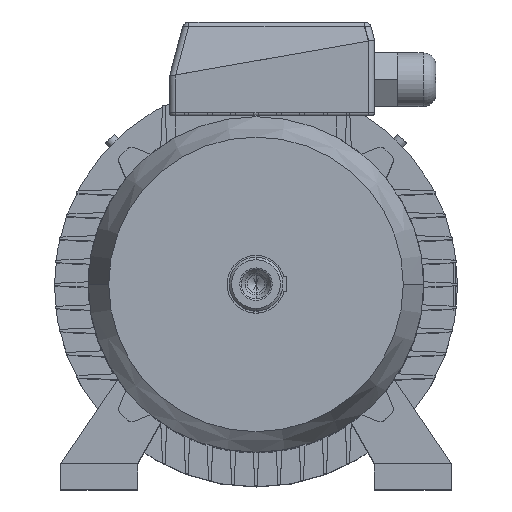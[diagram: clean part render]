
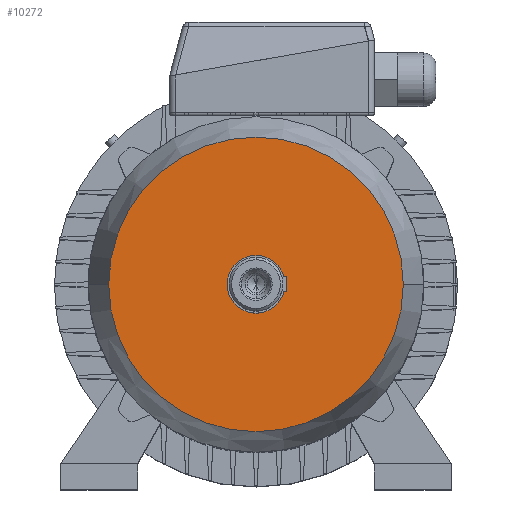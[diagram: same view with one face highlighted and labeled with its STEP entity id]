
A CAD part, top view. The second image highlights one B-rep face of the part: STEP entity #10272.
In plain terms, the highlighted planar face has unit normal (0, 0, 1).
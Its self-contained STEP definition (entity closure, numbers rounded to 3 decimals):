
#3232 = CARTESIAN_POINT ( 'NONE',  ( -115., 0., 59. ) ) ;
#6218 = CARTESIAN_POINT ( 'NONE',  ( 115., 0., 59. ) ) ;
#6728 = FACE_OUTER_BOUND ( 'NONE', #10337, .T. ) ;
#6729 = PLANE ( 'NONE',  #6730 ) ;
#6730 = AXIS2_PLACEMENT_3D ( 'NONE', #6731, #6732, #6733 ) ;
#6731 = CARTESIAN_POINT ( 'NONE',  ( 0., 115., 59. ) ) ;
#6732 = DIRECTION ( 'NONE',  ( 0., 0., 1. ) ) ;
#6733 = DIRECTION ( 'NONE',  ( 1., 0., 0. ) ) ;
#7930 = CIRCLE ( 'NONE', #7931, 115. ) ;
#7931 = AXIS2_PLACEMENT_3D ( 'NONE', #7932, #7933, #7934 ) ;
#7932 = CARTESIAN_POINT ( 'NONE',  ( 0., 0., 59. ) ) ;
#7933 = DIRECTION ( 'NONE',  ( 0., 0., -1. ) ) ;
#7934 = DIRECTION ( 'NONE',  ( -1., 0., 0. ) ) ;
#8423 = CIRCLE ( 'NONE', #8424, 115. ) ;
#8424 = AXIS2_PLACEMENT_3D ( 'NONE', #8425, #8426, #8427 ) ;
#8425 = CARTESIAN_POINT ( 'NONE',  ( 0., 0., 59. ) ) ;
#8426 = DIRECTION ( 'NONE',  ( 0., 0., -1. ) ) ;
#8427 = DIRECTION ( 'NONE',  ( -1., 0., 0. ) ) ;
#8902 = VERTEX_POINT ( 'NONE', #3232 ) ;
#10022 = VERTEX_POINT ( 'NONE', #6218 ) ;
#10272 = ADVANCED_FACE ( 'NONE', ( #6728 ), #6729, .T. ) ;
#10337 = EDGE_LOOP ( 'NONE', ( #10610, #10652 ) ) ;
#10610 = ORIENTED_EDGE ( 'NONE', *, *, #11117, .F. ) ;
#10652 = ORIENTED_EDGE ( 'NONE', *, *, #10843, .F. ) ;
#10843 = EDGE_CURVE ( 'NONE', #10022, #8902, #7930, .T. ) ;
#11117 = EDGE_CURVE ( 'NONE', #8902, #10022, #8423, .T. ) ;
